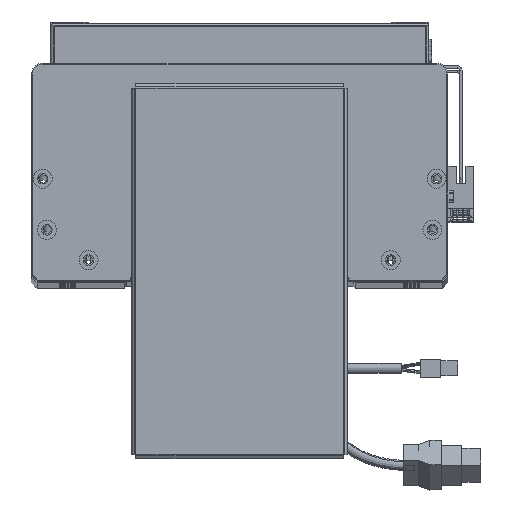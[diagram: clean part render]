
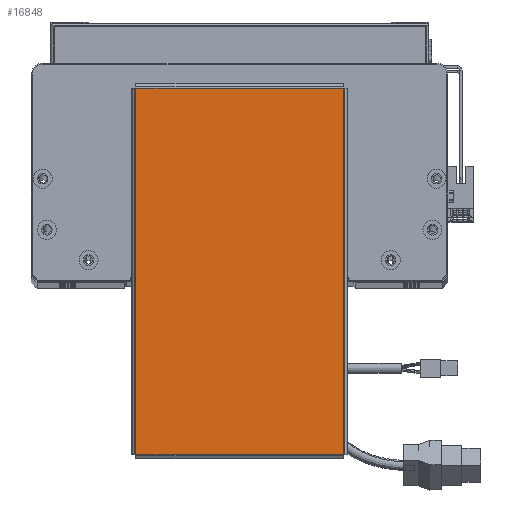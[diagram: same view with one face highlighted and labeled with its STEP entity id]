
A CAD part, top view. The second image highlights one B-rep face of the part: STEP entity #16848.
In plain terms, the highlighted planar face has unit normal (0, 0, 1).
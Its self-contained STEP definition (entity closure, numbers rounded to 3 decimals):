
#901 = EDGE_CURVE ( 'NONE', #8469, #11106, #23909, .T. ) ;
#1381 = AXIS2_PLACEMENT_3D ( 'NONE', #17431, #66347, #22791 ) ;
#2855 = CARTESIAN_POINT ( 'NONE',  ( -96.793, -54.763, 0. ) ) ;
#4955 = CARTESIAN_POINT ( 'NONE',  ( 96.763, -54.763, 0. ) ) ;
#8469 = VERTEX_POINT ( 'NONE', #36732 ) ;
#10449 = ORIENTED_EDGE ( 'NONE', *, *, #61102, .T. ) ;
#11106 = VERTEX_POINT ( 'NONE', #55791 ) ;
#12636 = ORIENTED_EDGE ( 'NONE', *, *, #41241, .T. ) ;
#14336 = LINE ( 'NONE', #2855, #36994 ) ;
#14457 = LINE ( 'NONE', #68244, #41347 ) ;
#15094 = DIRECTION ( 'NONE',  ( 0., -1., 0. ) ) ;
#16848 = ADVANCED_FACE ( 'NONE', ( #39234 ), #39009, .T. ) ;
#17431 = CARTESIAN_POINT ( 'NONE',  ( 0., 0., 0. ) ) ;
#22224 = VECTOR ( 'NONE', #39129, 1000. ) ;
#22791 = DIRECTION ( 'NONE',  ( 1., 0., 0. ) ) ;
#23909 = LINE ( 'NONE', #28082, #22224 ) ;
#25422 = EDGE_CURVE ( 'NONE', #36338, #29245, #14336, .T. ) ;
#26329 = CARTESIAN_POINT ( 'NONE',  ( -96.763, -54.763, 0. ) ) ;
#28082 = CARTESIAN_POINT ( 'NONE',  ( 96.793, 54.763, 0. ) ) ;
#28682 = LINE ( 'NONE', #61321, #47126 ) ;
#29245 = VERTEX_POINT ( 'NONE', #4955 ) ;
#30027 = ORIENTED_EDGE ( 'NONE', *, *, #901, .T. ) ;
#36338 = VERTEX_POINT ( 'NONE', #26329 ) ;
#36732 = CARTESIAN_POINT ( 'NONE',  ( 96.763, 54.763, 0. ) ) ;
#36994 = VECTOR ( 'NONE', #51325, 1000. ) ;
#37841 = EDGE_LOOP ( 'NONE', ( #48726, #12636, #30027, #10449 ) ) ;
#39009 = PLANE ( 'NONE',  #1381 ) ;
#39129 = DIRECTION ( 'NONE',  ( -1., 0., 0. ) ) ;
#39234 = FACE_OUTER_BOUND ( 'NONE', #37841, .T. ) ;
#41241 = EDGE_CURVE ( 'NONE', #29245, #8469, #28682, .T. ) ;
#41347 = VECTOR ( 'NONE', #15094, 1000. ) ;
#44503 = DIRECTION ( 'NONE',  ( 0., 1., 0. ) ) ;
#47126 = VECTOR ( 'NONE', #44503, 1000. ) ;
#48726 = ORIENTED_EDGE ( 'NONE', *, *, #25422, .T. ) ;
#51325 = DIRECTION ( 'NONE',  ( 1., 0., 0. ) ) ;
#55791 = CARTESIAN_POINT ( 'NONE',  ( -96.763, 54.763, 0. ) ) ;
#61102 = EDGE_CURVE ( 'NONE', #11106, #36338, #14457, .T. ) ;
#61321 = CARTESIAN_POINT ( 'NONE',  ( 96.763, -54.793, 0. ) ) ;
#66347 = DIRECTION ( 'NONE',  ( 0., 0., 1. ) ) ;
#68244 = CARTESIAN_POINT ( 'NONE',  ( -96.763, 54.793, 0. ) ) ;
